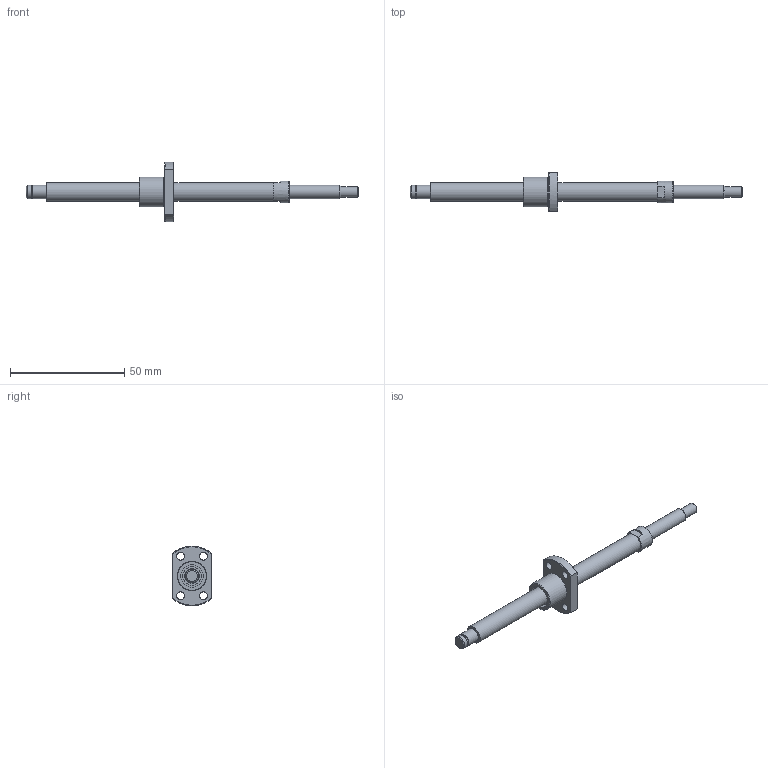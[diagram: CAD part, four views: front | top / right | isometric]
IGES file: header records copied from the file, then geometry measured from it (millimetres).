
Start section: Data from Parasolid IGES Translator 26.0.171, Copyright(c) 2006 Siemens PLM Software. All Rights Reserved.
Global section: file name: BNK0801-3G0+145LC5Y(55.5).igs; native system: By Siemens PLM Incorporated; preprocessor: XPlus GENERIC/IGES 26.0.171; author: Noname; organization: Noname; date: 20240709.082919; units: millimetre
Bounding box: 145 x 17 x 26 mm (x, y, z)
Surface area: 5509 mm2 (no closed solid volume)
Topology: 0 solids, 0 shells, 53 faces, 224 edges, 193 vertices
Faces by surface type: revolution 32, extrusion 21
